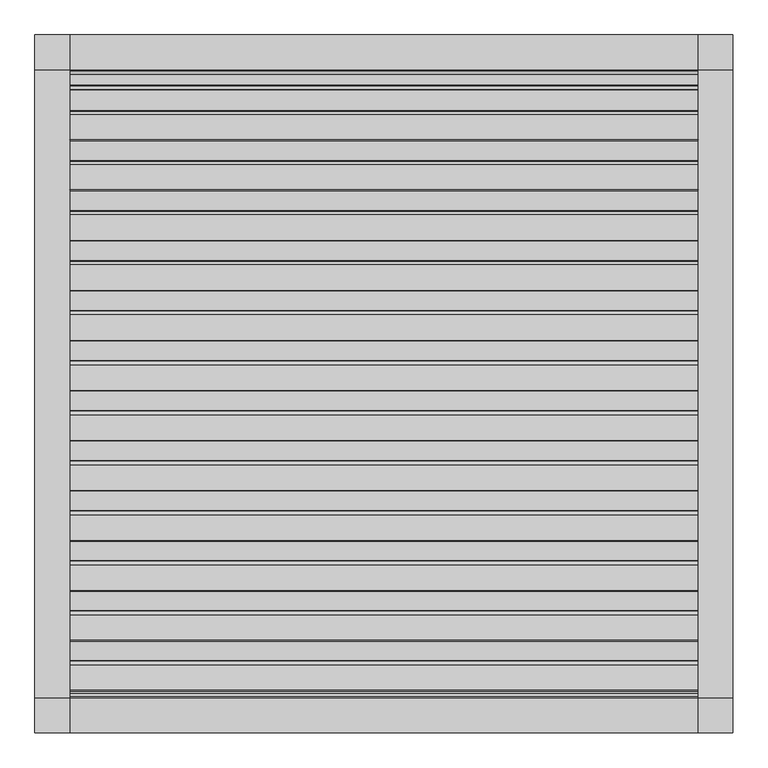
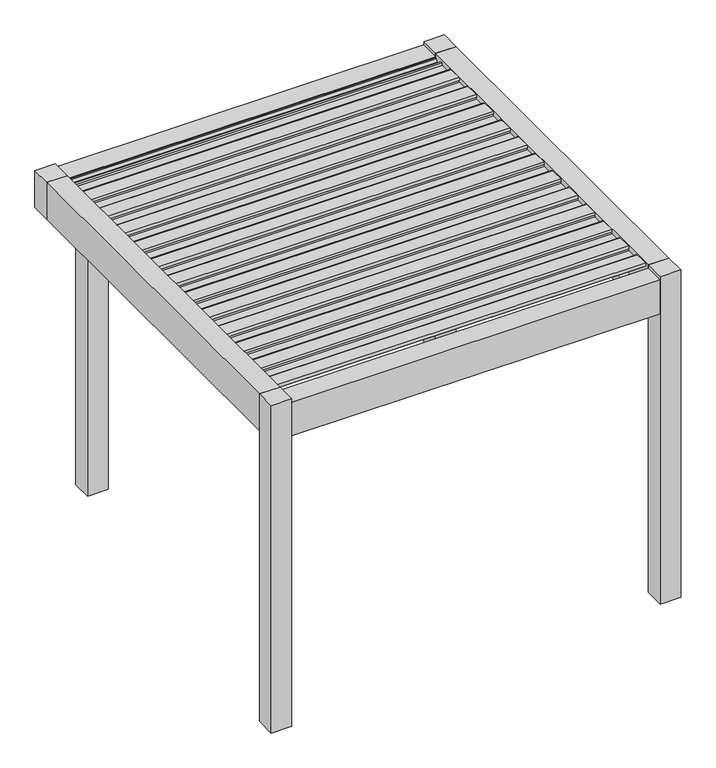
"""IFC4 building model written with IfcOpenShell, lengths in millimetres: proxy geometry, Renson_Amani_Patio_Cover : Renson_Amani_Patio_Cover."""

from ifc_helpers import new_model, si_unit, point, frame, frame_2d, origin, origin_with_axes, place, context, project, spatial, polyline, circle_curve, trimmed, segment, composite_curve, outline, extrude, source, transform, mapped, element, save


def generic_models_3b55bde2(model_context):
    return source(origin(), model_context, "Body", "SweptSolid", [
        extrude(outline(composite_curve([segment(polyline([(-1073.7289238, 2483.35), (-1076.1490335, 2511.01198), (-1104.984284, 2512.3970364), (-1101.5469529, 2531.8911096), (-991.549838, 2526.6075693)]), True, "CONTINUOUS"), segment(trimmed(circle_curve(frame_2d((-992.26951, 2511.6248435)), 15.0), [point((-991.549838, 2526.6075693))], [point((-977.4973937, 2514.2295662))], False, "CARTESIAN"), True, "CONTINUOUS"), segment(polyline([(-977.4973937, 2514.2295662), (-974.1067023, 2495.0), (-886.3709263, 2495.0), (-883.3594689, 2512.0788237), (-868.0824984, 2511.3450182), (-865.6332517, 2483.35), (-1073.7289238, 2483.35)]), True, "CONTINUOUS")], self_intersect=False)), frame((-1350.0, 0.0, 0.0), z_axis=(1.0, 0.0, 0.0), x_axis=(0.0, 1.0, 0.0)), (0.0, 0.0, 1.0), 2700.0),
        extrude(outline(composite_curve([segment(polyline([(-858.7132078, 2483.35), (-861.1333174, 2511.01198), (-889.9685679, 2512.3970364), (-886.5312368, 2531.8911096), (-776.534122, 2526.6075693)]), True, "CONTINUOUS"), segment(trimmed(circle_curve(frame_2d((-777.2537939, 2511.6248435)), 15.0), [point((-776.534122, 2526.6075693))], [point((-762.4816776, 2514.2295662))], False, "CARTESIAN"), True, "CONTINUOUS"), segment(polyline([(-762.4816776, 2514.2295662), (-759.0909863, 2495.0), (-671.3552102, 2495.0), (-668.3437528, 2512.0788237), (-653.0667824, 2511.3450182), (-650.6175356, 2483.35), (-858.7132078, 2483.35)]), True, "CONTINUOUS")], self_intersect=False)), frame((-1350.0, 0.0, 0.0), z_axis=(1.0, 0.0, 0.0), x_axis=(0.0, 1.0, 0.0)), (0.0, 0.0, 1.0), 2700.0),
        extrude(outline(composite_curve([segment(polyline([(-643.6974917, 2483.35), (-646.1176014, 2511.01198), (-674.9528519, 2512.3970364), (-671.5155208, 2531.8911096), (-561.5184059, 2526.6075693)]), True, "CONTINUOUS"), segment(trimmed(circle_curve(frame_2d((-562.2380779, 2511.6248435)), 15.0), [point((-561.5184059, 2526.6075693))], [point((-547.4659616, 2514.2295662))], False, "CARTESIAN"), True, "CONTINUOUS"), segment(polyline([(-547.4659616, 2514.2295662), (-544.0752702, 2495.0), (-456.3394942, 2495.0), (-453.3280368, 2512.0788237), (-438.0510663, 2511.3450182), (-435.6018196, 2483.35), (-643.6974917, 2483.35)]), True, "CONTINUOUS")], self_intersect=False)), frame((-1350.0, 0.0, 0.0), z_axis=(1.0, 0.0, 0.0), x_axis=(0.0, 1.0, 0.0)), (0.0, 0.0, 1.0), 2700.0),
        extrude(outline(composite_curve([segment(polyline([(-428.6817757, 2483.35), (-431.1018854, 2511.01198), (-459.9371358, 2512.3970364), (-456.4998047, 2531.8911096), (-346.5026899, 2526.6075693)]), True, "CONTINUOUS"), segment(trimmed(circle_curve(frame_2d((-347.2223618, 2511.6248435)), 15.0), [point((-346.5026899, 2526.6075693))], [point((-332.4502455, 2514.2295662))], False, "CARTESIAN"), True, "CONTINUOUS"), segment(polyline([(-332.4502455, 2514.2295662), (-329.0595542, 2495.0), (-241.3237782, 2495.0), (-238.3123207, 2512.0788237), (-223.0353503, 2511.3450182), (-220.5861035, 2483.35), (-428.6817757, 2483.35)]), True, "CONTINUOUS")], self_intersect=False)), frame((-1350.0, 0.0, 0.0), z_axis=(1.0, 0.0, 0.0), x_axis=(0.0, 1.0, 0.0)), (0.0, 0.0, 1.0), 2700.0),
        extrude(outline(composite_curve([segment(polyline([(-213.6660597, 2483.35), (-216.0861693, 2511.01198), (-244.9214198, 2512.3970364), (-241.4840887, 2531.8911096), (-131.4869738, 2526.6075693)]), True, "CONTINUOUS"), segment(trimmed(circle_curve(frame_2d((-132.2066458, 2511.6248435)), 15.0), [point((-131.4869738, 2526.6075693))], [point((-117.4345295, 2514.2295662))], False, "CARTESIAN"), True, "CONTINUOUS"), segment(polyline([(-117.4345295, 2514.2295662), (-114.0438381, 2495.0), (-26.3080621, 2495.0), (-23.2966047, 2512.0788237), (-8.0196342, 2511.3450182), (-5.5703875, 2483.35), (-213.6660597, 2483.35)]), True, "CONTINUOUS")], self_intersect=False)), frame((-1350.0, 0.0, 0.0), z_axis=(1.0, 0.0, 0.0), x_axis=(0.0, 1.0, 0.0)), (0.0, 0.0, 1.0), 2700.0),
        extrude(outline(composite_curve([segment(polyline([(1.3496564, 2483.35), (-1.0704533, 2511.01198), (-29.9057037, 2512.3970364), (-26.4683726, 2531.8911096), (83.5287422, 2526.6075693)]), True, "CONTINUOUS"), segment(trimmed(circle_curve(frame_2d((82.8090703, 2511.6248435)), 15.0), [point((83.5287422, 2526.6075693))], [point((97.5811866, 2514.2295662))], False, "CARTESIAN"), True, "CONTINUOUS"), segment(polyline([(97.5811866, 2514.2295662), (100.9718779, 2495.0), (188.7076539, 2495.0), (191.7191114, 2512.0788237), (206.9960818, 2511.3450182), (209.4453286, 2483.35), (1.3496564, 2483.35)]), True, "CONTINUOUS")], self_intersect=False)), frame((-1350.0, 0.0, 0.0), z_axis=(1.0, 0.0, 0.0), x_axis=(0.0, 1.0, 0.0)), (0.0, 0.0, 1.0), 2700.0),
        extrude(outline(composite_curve([segment(polyline([(216.3653724, 2483.35), (213.9452628, 2511.01198), (185.1100123, 2512.3970364), (188.5473434, 2531.8911096), (298.5444582, 2526.6075693)]), True, "CONTINUOUS"), segment(trimmed(circle_curve(frame_2d((297.8247863, 2511.6248435)), 15.0), [point((298.5444582, 2526.6075693))], [point((312.5969026, 2514.2295662))], False, "CARTESIAN"), True, "CONTINUOUS"), segment(polyline([(312.5969026, 2514.2295662), (315.987594, 2495.0), (403.72337, 2495.0), (406.7348274, 2512.0788237), (422.0117979, 2511.3450182), (424.4610446, 2483.35), (216.3653724, 2483.35)]), True, "CONTINUOUS")], self_intersect=False)), frame((-1350.0, 0.0, 0.0), z_axis=(1.0, 0.0, 0.0), x_axis=(0.0, 1.0, 0.0)), (0.0, 0.0, 1.0), 2700.0),
        extrude(outline(composite_curve([segment(polyline([(431.3810885, 2483.35), (428.9609788, 2511.01198), (400.1257284, 2512.3970364), (403.5630594, 2531.8911096), (513.5601743, 2526.6075693)]), True, "CONTINUOUS"), segment(trimmed(circle_curve(frame_2d((512.8405024, 2511.6248435)), 15.0), [point((513.5601743, 2526.6075693))], [point((527.6126187, 2514.2295662))], False, "CARTESIAN"), True, "CONTINUOUS"), segment(polyline([(527.6126187, 2514.2295662), (531.00331, 2495.0), (618.739086, 2495.0), (621.7505434, 2512.0788237), (637.0275139, 2511.3450182), (639.4767606, 2483.35), (431.3810885, 2483.35)]), True, "CONTINUOUS")], self_intersect=False)), frame((-1350.0, 0.0, 0.0), z_axis=(1.0, 0.0, 0.0), x_axis=(0.0, 1.0, 0.0)), (0.0, 0.0, 1.0), 2700.0),
        extrude(outline(composite_curve([segment(polyline([(646.3968045, 2483.35), (643.9766949, 2511.01198), (615.1414444, 2512.3970364), (618.5787755, 2531.8911096), (728.5758903, 2526.6075693)]), True, "CONTINUOUS"), segment(trimmed(circle_curve(frame_2d((727.8562184, 2511.6248435)), 15.0), [point((728.5758903, 2526.6075693))], [point((742.6283347, 2514.2295662))], False, "CARTESIAN"), True, "CONTINUOUS"), segment(polyline([(742.6283347, 2514.2295662), (746.019026, 2495.0), (833.7548021, 2495.0), (836.7662595, 2512.0788237), (852.04323, 2511.3450182), (854.4924767, 2483.35), (646.3968045, 2483.35)]), True, "CONTINUOUS")], self_intersect=False)), frame((-1350.0, 0.0, 0.0), z_axis=(1.0, 0.0, 0.0), x_axis=(0.0, 1.0, 0.0)), (0.0, 0.0, 1.0), 2700.0),
        extrude(outline(composite_curve([segment(polyline([(861.4125206, 2483.35), (858.9924109, 2511.01198), (830.1571605, 2512.3970364), (833.5944915, 2531.8911096), (943.5916064, 2526.6075693)]), True, "CONTINUOUS"), segment(trimmed(circle_curve(frame_2d((942.8719345, 2511.6248435)), 15.0), [point((943.5916064, 2526.6075693))], [point((957.6440508, 2514.2295662))], False, "CARTESIAN"), True, "CONTINUOUS"), segment(polyline([(957.6440508, 2514.2295662), (961.0347421, 2495.0), (1048.7705181, 2495.0), (1051.7819755, 2512.0788237), (1067.058946, 2511.3450182), (1069.5081927, 2483.35), (861.4125206, 2483.35)]), True, "CONTINUOUS")], self_intersect=False)), frame((-1350.0, 0.0, 0.0), z_axis=(1.0, 0.0, 0.0), x_axis=(0.0, 1.0, 0.0)), (0.0, 0.0, 1.0), 2700.0),
        extrude(outline(composite_curve([segment(polyline([(-1288.7446399, 2483.35), (-1291.1647495, 2511.01198), (-1320.0, 2512.3970364), (-1316.5626689, 2531.8911096), (-1206.5655541, 2526.6075693)]), True, "CONTINUOUS"), segment(trimmed(circle_curve(frame_2d((-1207.285226, 2511.6248435)), 15.0), [point((-1206.5655541, 2526.6075693))], [point((-1192.5131097, 2514.2295662))], False, "CARTESIAN"), True, "CONTINUOUS"), segment(polyline([(-1192.5131097, 2514.2295662), (-1189.1224184, 2495.0), (-1101.3866423, 2495.0), (-1098.3751849, 2512.0788237), (-1083.0982144, 2511.3450182), (-1080.6489677, 2483.35), (-1288.7446399, 2483.35)]), True, "CONTINUOUS")], self_intersect=False)), frame((-1350.0, 0.0, 0.0), z_axis=(1.0, 0.0, 0.0), x_axis=(0.0, 1.0, 0.0)), (0.0, 0.0, 1.0), 2700.0),
        extrude(outline(composite_curve([segment(polyline([(1076.4282366, 2483.35), (1074.008127, 2511.01198), (1045.1728765, 2512.3970364), (1048.6102076, 2531.8911096), (1158.6073224, 2526.6075693)]), True, "CONTINUOUS"), segment(trimmed(circle_curve(frame_2d((1157.8876505, 2511.6248435)), 15.0), [point((1158.6073224, 2526.6075693))], [point((1172.6597668, 2514.2295662))], False, "CARTESIAN"), True, "CONTINUOUS"), segment(polyline([(1172.6597668, 2514.2295662), (1176.0504581, 2495.0), (1263.7862342, 2495.0), (1266.7976916, 2512.0788237), (1282.0746621, 2511.3450182), (1284.5239088, 2483.35), (1076.4282366, 2483.35)]), True, "CONTINUOUS")], self_intersect=False)), frame((-1350.0, 0.0, 0.0), z_axis=(1.0, 0.0, 0.0), x_axis=(0.0, 1.0, 0.0)), (0.0, 0.0, 1.0), 2700.0),
        extrude(outline(polyline([(-1350.0, 1500.0), (-1350.0, 1350.0), (-1500.0, 1350.0), (-1500.0, 1500.0), (-1350.0, 1500.0)])), frame((0.0, 0.0, 2250.0), z_axis=(0.0, 0.0, 1.0), x_axis=(1.0, 0.0, 0.0)), (0.0, 0.0, 1.0), 285.0),
        extrude(outline(polyline([(1500.0, -1350.0), (1500.0, -1500.0), (1350.0, -1500.0), (1350.0, -1350.0), (1500.0, -1350.0)])), origin_with_axes(), (0.0, 0.0, 1.0), 2535.0),
        extrude(outline(polyline([(1500.0, 1500.0), (1500.0, 1350.0), (1350.0, 1350.0), (1350.0, 1500.0), (1500.0, 1500.0)])), origin_with_axes(), (0.0, 0.0, 1.0), 2535.0),
        extrude(outline(polyline([(-1050.0, 1500.0), (-1050.0, 1350.0), (-1200.0, 1350.0), (-1200.0, 1500.0), (-1050.0, 1500.0)])), origin_with_axes(), (0.0, 0.0, 1.0), 2250.0),
        extrude(outline(polyline([(-1350.0, -1350.0), (-1350.0, -1500.0), (-1500.0, -1500.0), (-1500.0, -1350.0), (-1350.0, -1350.0)])), origin_with_axes(), (0.0, 0.0, 1.0), 2535.0),
        extrude(outline(polyline([(1350.0, 2466.6559373), (1290.0, 2466.6559373), (1286.2487113, 2480.6555802), (1329.5940945, 2480.6555802), (1345.0, 2496.400763), (1345.0, 2504.2449277), (1350.0, 2504.6823598), (1350.0, 2466.6559373)])), frame((-1350.0, 0.0, 0.0), z_axis=(1.0, 0.0, 0.0), x_axis=(0.0, 1.0, 0.0)), (0.0, 0.0, 1.0), 2700.0),
        extrude(outline(polyline([(-1350.0, 2510.0), (-1350.0, 2479.6823598), (-1345.0, 2479.2449277), (-1345.0, 2471.400763), (-1329.2544156, 2455.6555802), (-1319.9090324, 2455.6555802), (-1323.6603211, 2441.6559373), (-1350.0, 2441.6559373), (-1350.0, 2250.0), (-1500.0, 2250.0), (-1500.0, 2510.0), (-1350.0, 2510.0)])), frame((-1350.0, 0.0, 0.0), z_axis=(1.0, 0.0, 0.0), x_axis=(0.0, 1.0, 0.0)), (0.0, 0.0, 1.0), 2700.0),
        extrude(outline(polyline([(1350.0, 1500.0), (1350.0, 1350.0), (-1350.0, 1350.0), (-1350.0, 1500.0), (1350.0, 1500.0)])), frame((0.0, 0.0, 2250.0), z_axis=(0.0, 0.0, 1.0), x_axis=(1.0, 0.0, 0.0)), (0.0, 0.0, 1.0), 260.0),
        extrude(outline(polyline([(2535.0, -1350.0), (2535.0, -1500.0), (2250.0, -1500.0), (2250.0, -1280.0000001), (2322.0, -1280.0000001), (2322.0, -1350.0), (2535.0, -1350.0)])), frame((0.0, -1350.0, 0.0), z_axis=(0.0, 1.0, 0.0), x_axis=(0.0, 0.0, 1.0)), (0.0, 0.0, 1.0), 2700.0),
        extrude(outline(polyline([(2250.0, 1500.0), (2535.0, 1500.0), (2535.0, 1350.0), (2322.0, 1350.0), (2322.0, 1280.0000001), (2250.0, 1280.0000001), (2250.0, 1500.0)])), frame((0.0, -1350.0, 0.0), z_axis=(0.0, 1.0, 0.0), x_axis=(0.0, 0.0, 1.0)), (0.0, 0.0, 1.0), 2700.0),
    ])


if __name__ == "__main__":
    model = new_model("IFC4")
    model_context = context("Model", 3, world=origin())
    ifc_project = project(units=[si_unit("LENGTHUNIT", "METRE", prefix="MILLI")], contexts=[model_context])
    site = spatial("IfcSite", under=ifc_project)
    building = spatial("IfcBuilding", under=site)
    placement = place(None, origin())
    generic_models_shape = generic_models_3b55bde2(model_context)
    element("IfcBuildingElementProxy", 1, Name="Renson_Amani_Patio_Cover : Renson_Amani_Patio_Cover", ObjectType="Renson_Amani_Patio_Cover : Renson_Amani_Patio_Cover", at=placement, inside=building, context=model_context, shape_type="MappedRepresentation", body=[
        mapped(generic_models_shape, transform((0.0, 0.0, 0.0), x_axis=(1.0, 0.0, 0.0), y_axis=(0.0, 1.0, 0.0), z_axis=(0.0, 0.0, 1.0))),
    ])
    save(model, "model.ifc")
